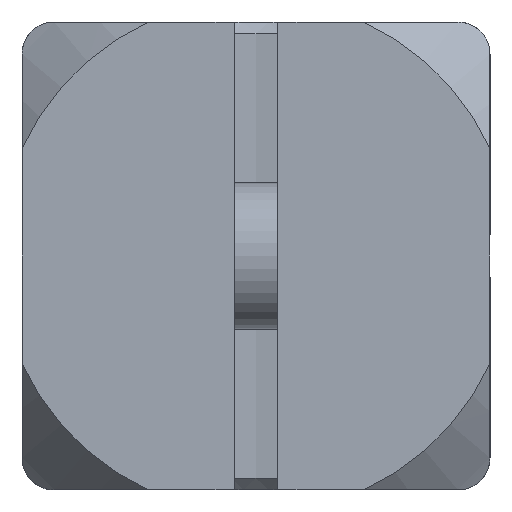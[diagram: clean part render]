
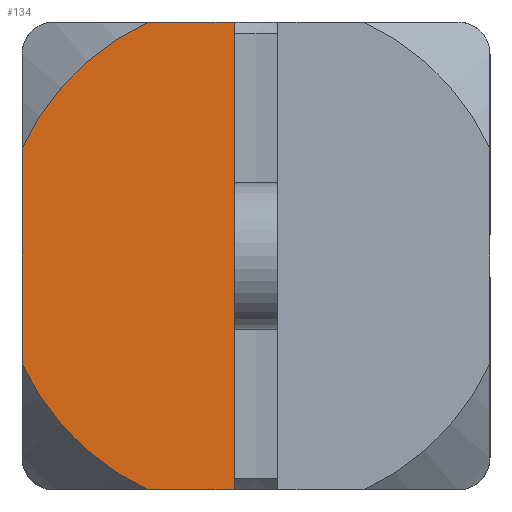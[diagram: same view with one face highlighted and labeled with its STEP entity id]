
A CAD part, left-side view. The second image highlights one B-rep face of the part: STEP entity #134.
In plain terms, the highlighted planar face has unit normal (-1, 0, 0).
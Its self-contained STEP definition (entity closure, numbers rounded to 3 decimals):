
#134 = ADVANCED_FACE( '', ( #325 ), #326, .F. );
#325 = FACE_OUTER_BOUND( '', #565, .T. );
#326 = PLANE( '', #566 );
#565 = EDGE_LOOP( '', ( #1130, #1131, #1132, #1133, #1134, #1135 ) );
#566 = AXIS2_PLACEMENT_3D( '', #1136, #1137, #1138 );
#1130 = ORIENTED_EDGE( '', *, *, #1705, .F. );
#1131 = ORIENTED_EDGE( '', *, *, #1706, .F. );
#1132 = ORIENTED_EDGE( '', *, *, #1699, .F. );
#1133 = ORIENTED_EDGE( '', *, *, #1586, .T. );
#1134 = ORIENTED_EDGE( '', *, *, #1696, .F. );
#1135 = ORIENTED_EDGE( '', *, *, #1673, .T. );
#1136 = CARTESIAN_POINT( '', ( -17., 8., 8. ) );
#1137 = DIRECTION( '', ( 1., 0., 0. ) );
#1138 = DIRECTION( '', ( 0., 0., -1. ) );
#1586 = EDGE_CURVE( '', #1924, #1922, #1925, .T. );
#1673 = EDGE_CURVE( '', #2078, #2076, #2079, .T. );
#1696 = EDGE_CURVE( '', #2078, #1922, #2114, .T. );
#1699 = EDGE_CURVE( '', #1924, #2115, #2119, .T. );
#1705 = EDGE_CURVE( '', #2127, #2076, #2128, .T. );
#1706 = EDGE_CURVE( '', #2115, #2127, #2129, .T. );
#1922 = VERTEX_POINT( '', #2523 );
#1924 = VERTEX_POINT( '', #2530 );
#1925 = LINE( '', #2531, #2532 );
#2076 = VERTEX_POINT( '', #2759 );
#2078 = VERTEX_POINT( '', #2762 );
#2079 = LINE( '', #2763, #2764 );
#2114 = CIRCLE( '', #2853, 8.8 );
#2115 = VERTEX_POINT( '', #2854 );
#2119 = CIRCLE( '', #2874, 8.8 );
#2127 = VERTEX_POINT( '', #2900 );
#2128 = LINE( '', #2901, #2902 );
#2129 = LINE( '', #2903, #2904 );
#2523 = CARTESIAN_POINT( '', ( -17., 8., -3.666 ) );
#2530 = CARTESIAN_POINT( '', ( -17., 8., 3.666 ) );
#2531 = CARTESIAN_POINT( '', ( -17., 8., 8. ) );
#2532 = VECTOR( '', #3153, 1000. );
#2759 = CARTESIAN_POINT( '', ( -17., 0.75, -8. ) );
#2762 = CARTESIAN_POINT( '', ( -17., 3.666, -8. ) );
#2763 = CARTESIAN_POINT( '', ( -17., 8., -8. ) );
#2764 = VECTOR( '', #3293, 1000. );
#2853 = AXIS2_PLACEMENT_3D( '', #3325, #3326, #3327 );
#2854 = CARTESIAN_POINT( '', ( -17., 3.666, 8. ) );
#2874 = AXIS2_PLACEMENT_3D( '', #3328, #3329, #3330 );
#2900 = CARTESIAN_POINT( '', ( -17., 0.75, 8. ) );
#2901 = CARTESIAN_POINT( '', ( -17., 0.75, 8. ) );
#2902 = VECTOR( '', #3336, 1000. );
#2903 = CARTESIAN_POINT( '', ( -17., 8., 8. ) );
#2904 = VECTOR( '', #3337, 1000. );
#3153 = DIRECTION( '', ( 0., 0., -1. ) );
#3293 = DIRECTION( '', ( 0., -1., 0. ) );
#3325 = CARTESIAN_POINT( '', ( -17., 0., 0. ) );
#3326 = DIRECTION( '', ( 1., 0., 0. ) );
#3327 = DIRECTION( '', ( 0., 0., -1. ) );
#3328 = CARTESIAN_POINT( '', ( -17., 0., 0. ) );
#3329 = DIRECTION( '', ( 1., 0., 0. ) );
#3330 = DIRECTION( '', ( 0., 0., -1. ) );
#3336 = DIRECTION( '', ( 0., 0., -1. ) );
#3337 = DIRECTION( '', ( 0., -1., 0. ) );
